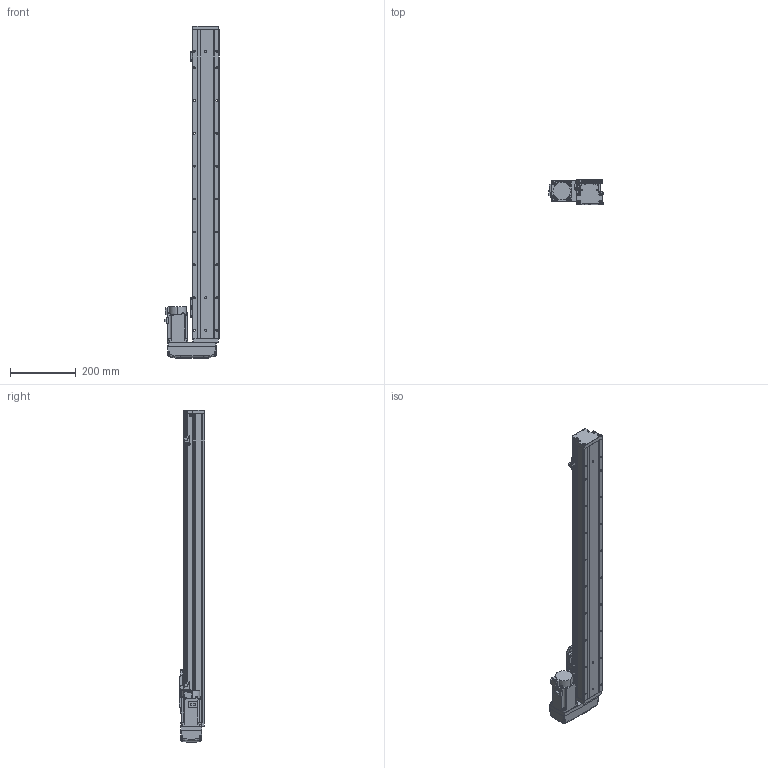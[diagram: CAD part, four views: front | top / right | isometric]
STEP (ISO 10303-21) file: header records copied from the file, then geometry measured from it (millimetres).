
FILE_DESCRIPTION (( 'STEP AP203' ), '1' );
FILE_NAME ('GTH8-750-BL-M20-C4.step', '2022-09-23T01:01:22', ( '微软用户' ), ( '微软中国' ), 'SwSTEP 2.0', 'SolidWorks 2020', '' );
FILE_SCHEMA (( 'CONFIG_CONTROL_DESIGN' ));
Length unit declared in the file: millimetre
Products named in the file (18): BTH-M3X5X6; GTH80-001_750; GBT 70.1-M3℅6; hg-kn43j_-s100_; GTH80-003; GBT 70.1-M4×16; CTHA86-015-1_CTHA86-015-2; GTH80-004; GTH80-028; CTHA86-033_M40B; GTH80-006; GTH50-024; GTH8-750-BL-M20-C4; GTH80-013; GTH50-023; GBT 70.3-M3℅6; GBT96.1-2002 3×0.8; GTH80-022
Assembly tree (57 placements, depth 2):
  GTH8-750-BL-M20-C4
    GTH80-001_750
    GTH80-003
    GTH80-004
    GTH80-006
    GTH80-013
    GBT 70.3-M3℅6  x4
    GTH80-022
    GBT 70.1-M3℅6  x14
    GBT 70.1-M4×16  x8
    GTH80-028  x2
    GTH50-024  x3
    GTH50-023  x3
    GBT96.1-2002 3×0.8  x6
    BTH-M3X5X6  x8
    hg-kn43j_-s100_
    CTHA86-015-1_CTHA86-015-2
    CTHA86-033_M40B
Bounding box: 164.8 x 78 x 1011 mm (x, y, z)
Volume: 5058425.4 mm3; surface area: 513963.7 mm2
Topology: 59 solids, 59 shells, 2248 faces, 5199 edges, 3187 vertices
Faces by surface type: plane 1187, cylinder 619, cone 260, torus 166, bspline 8, sphere 8
Entity records: 41218 total; most frequent: CARTESIAN_POINT 7241, DIRECTION 6705, ORIENTED_EDGE 6216, EDGE_CURVE 3108, AXIS2_PLACEMENT_3D 2349, LINE 2007, VECTOR 2007, VERTEX_POINT 1962
